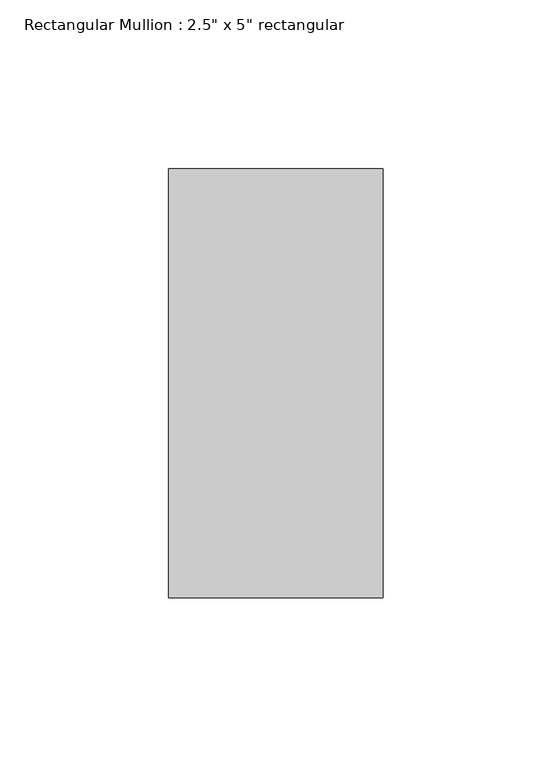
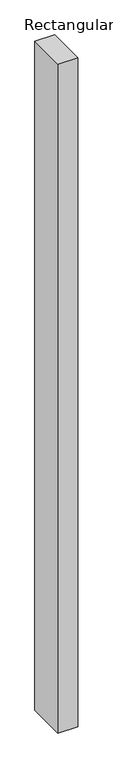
"""IFC4 building model written with IfcOpenShell, lengths in millimetres: member geometry."""

import ifcopenshell
import ifcopenshell.guid

model = None  # the IFC model being written
_history = None  # IfcOwnerHistory: only IFC2X3 demands one
_inside = {}  # id of a spatial element -> (the spatial element, [elements in it])
_under = {}  # id of a project, library or spatial element -> (it, [spatial elements below it])
_declared = {}  # id of a project -> (the project, [libraries it declares])
_typed = {}  # id of a type object -> (the type object, [elements of that type])
_made_of = {}  # id of a material, layer set ... -> (it, [elements and type objects made of it])


def new_model(schema):
    """Start an empty IFC model of exactly this schema.

    Asked for "IFC4X3", IfcOpenShell would pick the latest addendum, in which some entities
    have other attributes; the version numbers below select the first issue.
    IFC2X3 requires an IfcOwnerHistory on every rooted entity: one is made here for all.
    """
    global model, _history
    if schema == "IFC4X3":
        model = ifcopenshell.file(schema_version=(4, 3, 0, 0))
    else:
        model = ifcopenshell.file(schema=schema)
    _inside.clear()
    _under.clear()
    _declared.clear()
    _typed.clear()
    _made_of.clear()
    _history = None
    if model.schema == "IFC2X3":
        org = make("IfcOrganization", Name="unknown")
        user = make(
            "IfcPersonAndOrganization",
            ThePerson=make("IfcPerson", FamilyName="unknown"),
            TheOrganization=org,
        )
        app = make(
            "IfcApplication",
            ApplicationDeveloper=org,
            Version="unknown",
            ApplicationFullName="unknown",
            ApplicationIdentifier="unknown",
        )
        _history = make(
            "IfcOwnerHistory",
            OwningUser=user,
            OwningApplication=app,
            ChangeAction="ADDED",
            CreationDate=0,
        )
    return model


def make(cls, **values):
    """One entity of the class cls with the attributes given. An attribute that is None is left unset."""
    return model.create_entity(
        cls, **{name: value for name, value in values.items() if value is not None}
    )


def rooted(cls, **values):
    """An entity with a GlobalId (a new one), such as an element, a storey or a relation."""
    return make(cls, GlobalId=ifcopenshell.guid.new(), OwnerHistory=_history, **values)


def si_unit(unit_type, name, prefix=None):
    """IfcSIUnit, for example si_unit("LENGTHUNIT", "METRE", prefix="MILLI")."""
    return make("IfcSIUnit", UnitType=unit_type, Prefix=prefix, Name=name)


def assignment(units):
    """IfcUnitAssignment: the units of a project."""
    return None if units is None else make("IfcUnitAssignment", Units=units)


def point(xyz):
    """IfcCartesianPoint."""
    return None if xyz is None else make("IfcCartesianPoint", Coordinates=xyz)


def direction(xyz):
    """IfcDirection."""
    return None if xyz is None else make("IfcDirection", DirectionRatios=xyz)


def frame(location, z_axis=None, x_axis=None):
    """IfcAxis2Placement3D, a coordinate frame: its origin and axes. An axis left out is left unset."""
    return make(
        "IfcAxis2Placement3D",
        Location=point(location),
        Axis=direction(z_axis),
        RefDirection=direction(x_axis),
    )


def origin():
    """The frame at (0, 0, 0) with its axes left unset."""
    return frame((0.0, 0.0, 0.0))


def place(relative_to, where):
    """IfcLocalPlacement: puts the frame where relative to a parent placement (None: the world)."""
    return make(
        "IfcLocalPlacement", PlacementRelTo=relative_to, RelativePlacement=where
    )


def context(
    kind, dimensions, precision=None, world=None, true_north=None, identifier=None
):
    """IfcGeometricRepresentationContext, for example the 3D "Model" context."""
    return make(
        "IfcGeometricRepresentationContext",
        ContextIdentifier=identifier,
        ContextType=kind,
        CoordinateSpaceDimension=dimensions,
        Precision=precision,
        WorldCoordinateSystem=world,
        TrueNorth=true_north,
    )


def project(units=None, contexts=None):
    """IfcProject with its units and contexts."""
    return rooted(
        "IfcProject",
        Name="project",
        RepresentationContexts=contexts,
        UnitsInContext=assignment(units),
    )


def spatial(cls, under=None, at=None, **own):
    """A site, building, storey or space (cls), placed at a placement, below another one or the project."""
    s = rooted(cls, ObjectPlacement=at, **own)
    if under is not None:
        _under.setdefault(under.id(), (under, []))[1].append(s)
    return s


def polyline(points):
    """IfcPolyline through the points."""
    return make("IfcPolyline", Points=[point(p) for p in points])


def outline(outer, holes=None, kind="AREA"):
    """IfcArbitraryClosedProfileDef: a profile drawn as a closed curve; with holes, ...WithVoids."""
    if holes is None:
        return make("IfcArbitraryClosedProfileDef", ProfileType=kind, OuterCurve=outer)
    return make(
        "IfcArbitraryProfileDefWithVoids",
        ProfileType=kind,
        OuterCurve=outer,
        InnerCurves=holes,
    )


def extrude(swept, where, along, depth):
    """IfcExtrudedAreaSolid: the profile swept, set in the frame where, extruded along a direction by depth."""
    return make(
        "IfcExtrudedAreaSolid",
        SweptArea=swept,
        Position=where,
        ExtrudedDirection=direction(along),
        Depth=depth,
    )


def shape(context_of_items, identifier, shape_type, items):
    """IfcShapeRepresentation: the items that make up one representation, for example the "Body"."""
    return make(
        "IfcShapeRepresentation",
        ContextOfItems=context_of_items,
        RepresentationIdentifier=identifier,
        RepresentationType=shape_type,
        Items=items,
    )


def source(mapping_origin, context_of_items, identifier, shape_type, items):
    """IfcRepresentationMap: a shape defined once, which mapped items show again and again."""
    return make(
        "IfcRepresentationMap",
        MappingOrigin=mapping_origin,
        MappedRepresentation=shape(context_of_items, identifier, shape_type, items),
    )


def transform(
    local_origin,
    x_axis=None,
    y_axis=None,
    z_axis=None,
    scale=None,
    scale2=None,
    scale3=None,
    uniform=True,
):
    """IfcCartesianTransformationOperator3D, or its non-uniform kind. x_axis, y_axis, z_axis: its Axis1, 2, 3."""
    if uniform:
        return make(
            "IfcCartesianTransformationOperator3D",
            Axis1=direction(x_axis),
            Axis2=direction(y_axis),
            LocalOrigin=point(local_origin),
            Scale=scale,
            Axis3=direction(z_axis),
        )
    return make(
        "IfcCartesianTransformationOperator3DnonUniform",
        Axis1=direction(x_axis),
        Axis2=direction(y_axis),
        LocalOrigin=point(local_origin),
        Scale=scale,
        Axis3=direction(z_axis),
        Scale2=scale2,
        Scale3=scale3,
    )


def mapped(mapping_source, mapping_target):
    """IfcMappedItem: shows the shape of a source again, moved by a transform."""
    return make(
        "IfcMappedItem", MappingSource=mapping_source, MappingTarget=mapping_target
    )


def made_of(thing, what):
    """Note that an element or type object is made of a material, layer set ...; save() writes the relation."""
    if what is not None:
        _made_of.setdefault(what.id(), (what, []))[1].append(thing)
    return thing


def element(
    cls,
    number,
    at=None,
    inside=None,
    cuts=None,
    type_object=None,
    material=None,
    context=None,
    identifier="Body",
    shape_type=None,
    held_by="IfcProductDefinitionShape",
    body=None,
    shapes=None,
    **own,
):
    """One element of the class cls, such as IfcWall. Its Tag is "e" and its number.

    at: its placement. inside: the storey or other place that contains it. cuts: it is an
    opening in that element (IfcRelVoidsElement). A single representation is given by context,
    identifier, shape_type and body (its items); several are given by shapes. held_by: the class
    of the entity that holds the representations. save() writes the other relations.
    """
    e = rooted(cls, Tag="e%d" % number, ObjectPlacement=at, **own)
    if body is not None:
        shapes = [shape(context, identifier, shape_type, body)]
    if shapes is not None:
        e.Representation = make(held_by, Representations=shapes)
    if inside is not None:
        _inside.setdefault(inside.id(), (inside, []))[1].append(e)
    if cuts is not None:
        rooted(
            "IfcRelVoidsElement", RelatingBuildingElement=cuts, RelatedOpeningElement=e
        )
    if type_object is not None:
        _typed.setdefault(type_object.id(), (type_object, []))[1].append(e)
    return made_of(e, material)


def aggregate(whole, parts):
    """IfcRelAggregates: a whole, such as a stair, and the parts it consists of."""
    return rooted("IfcRelAggregates", RelatingObject=whole, RelatedObjects=parts)


def save(model, path):
    """Write the relations noted so far, then the file.

    IfcRelAggregates (storeys below a building ...), IfcRelContainedInSpatialStructure (elements
    in a storey), IfcRelDefinesByType, IfcRelAssociatesMaterial and IfcRelDeclares: one each for
    every whole, place, type object, material and project.
    """
    for whole, parts in _under.values():
        aggregate(whole, parts)
    for where, things in _inside.values():
        rooted(
            "IfcRelContainedInSpatialStructure",
            RelatedElements=things,
            RelatingStructure=where,
        )
    for kind, things in _typed.values():
        rooted("IfcRelDefinesByType", RelatedObjects=things, RelatingType=kind)
    for what, things in _made_of.values():
        rooted("IfcRelAssociatesMaterial", RelatedObjects=things, RelatingMaterial=what)
    for by, libraries in _declared.values():
        rooted("IfcRelDeclares", RelatingContext=by, RelatedDefinitions=libraries)
    model.write(path)


def member_8e78e238(model_context):
    return source(origin(), model_context, "Body", "SweptSolid", [
        extrude(outline(polyline([(31.75, 63.5), (31.75, -63.5), (-31.75, -63.5), (-31.75, 63.5), (31.75, 63.5)])), frame((0.0, 0.0, -2263.810728), z_axis=(0.0, 0.0, 1.0), x_axis=(1.0, 0.0, 0.0)), (0.0, 0.0, 1.0), 2263.810728),
    ])


if __name__ == "__main__":
    model = new_model("IFC4")
    model_context = context("Model", 3, world=origin())
    ifc_project = project(units=[si_unit("LENGTHUNIT", "METRE", prefix="MILLI")], contexts=[model_context])
    site = spatial("IfcSite", under=ifc_project)
    building = spatial("IfcBuilding", under=site)
    placement = place(None, origin())
    member_shape = member_8e78e238(model_context)
    element("IfcMember", 1, ObjectType="Rectangular Mullion : 2.5\" x 5\" rectangular", at=placement, inside=building, context=model_context, shape_type="MappedRepresentation", body=[
        mapped(member_shape, transform((0.0, 0.0, 0.0), x_axis=(1.0, 0.0, 0.0), y_axis=(0.0, 1.0, 0.0), z_axis=(0.0, 0.0, 1.0))),
    ])
    save(model, "model.ifc")
